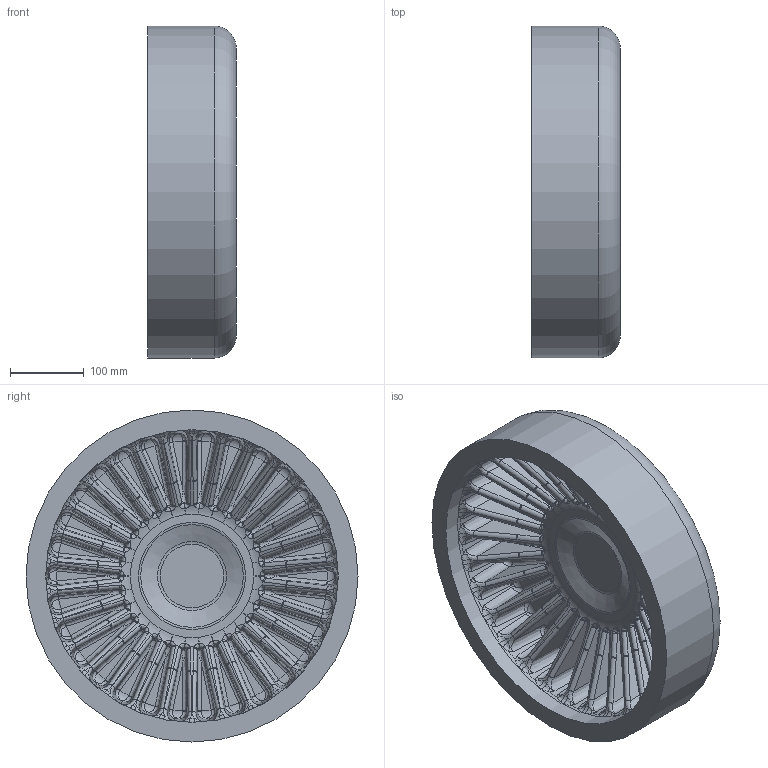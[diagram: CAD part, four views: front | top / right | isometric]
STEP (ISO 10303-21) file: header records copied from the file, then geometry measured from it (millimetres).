
FILE_DESCRIPTION(/* description */ ('Unknown'),/* implementation_level */ '2;1');
FILE_NAME(/* name */ 'CAP450B',/* time_stamp */ '2022-05-16T09:26:54+02:00',/* author */ ('Unknown'),/* organization */ ('Unknown'),/* preprocessor_version */ 'ST-DEVELOPER v18.1',/* originating_system */ 'Solid Edge',/* authorisation */ 'Unknown');
FILE_SCHEMA (('AUTOMOTIVE_DESIGN {1 0 10303 214 3 1 1}'));
Length unit declared in the file: millimetre
Products named in the file (1): CAP450B
Bounding box: 120 x 450 x 450 mm (x, y, z)
Volume: 9256306.9 mm3; surface area: 728243.5 mm2
Topology: 1 solids, 1 shells, 1179 faces, 2802 edges, 1508 vertices
Faces by surface type: bspline 748, cylinder 212, plane 154, torus 34, cone 31
Full cylindrical faces by diameter (mm): 396.6 x1, 450 x1
Entity records: 52912 total; most frequent: CARTESIAN_POINT 32041, ORIENTED_EDGE 5350, DIRECTION 3036, EDGE_CURVE 2675, VERTEX_POINT 1507, AXIS2_PLACEMENT_3D 1308, B_SPLINE_CURVE_WITH_KNOTS 1259, EDGE_LOOP 1188
